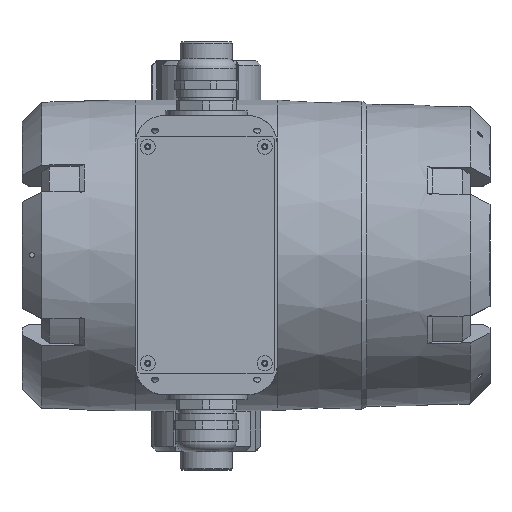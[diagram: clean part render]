
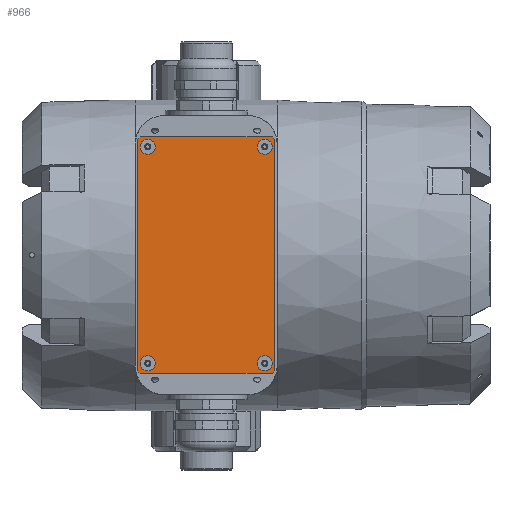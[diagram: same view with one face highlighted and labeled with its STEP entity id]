
A CAD part, top view. The second image highlights one B-rep face of the part: STEP entity #966.
In plain terms, the highlighted planar face has unit normal (0, 0, 1).
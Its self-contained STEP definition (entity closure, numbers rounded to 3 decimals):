
#966=ADVANCED_FACE('',(#9032,#9034,#9036,#9038,#9040),#9042,.T.);
#9032=FACE_BOUND('',#9033,.T.);
#9033=EDGE_LOOP('',(#32131,#32132,#32133,#32134,#32135,#32136,#32137,#32138));
#9034=FACE_BOUND('',#9035,.T.);
#9035=EDGE_LOOP('',(#32139));
#9036=FACE_BOUND('',#9037,.T.);
#9037=EDGE_LOOP('',(#32140));
#9038=FACE_BOUND('',#9039,.T.);
#9039=EDGE_LOOP('',(#32141));
#9040=FACE_BOUND('',#9041,.T.);
#9041=EDGE_LOOP('',(#32142));
#9042=PLANE('',#9043);
#9043=AXIS2_PLACEMENT_3D('',#9044,#9045,#9046);
#9044=CARTESIAN_POINT('',(0.,0.,214.868));
#9045=DIRECTION('',(0.,0.,1.));
#9046=DIRECTION('',(0.,1.,0.));
#32131=ORIENTED_EDGE('',*,*,#35903,.F.);
#32132=ORIENTED_EDGE('',*,*,#35889,.T.);
#32133=ORIENTED_EDGE('',*,*,#35892,.F.);
#32134=ORIENTED_EDGE('',*,*,#35894,.T.);
#32135=ORIENTED_EDGE('',*,*,#35896,.F.);
#32136=ORIENTED_EDGE('',*,*,#35898,.T.);
#32137=ORIENTED_EDGE('',*,*,#35900,.F.);
#32138=ORIENTED_EDGE('',*,*,#35902,.T.);
#32139=ORIENTED_EDGE('',*,*,#35964,.F.);
#32140=ORIENTED_EDGE('',*,*,#35965,.F.);
#32141=ORIENTED_EDGE('',*,*,#35966,.F.);
#32142=ORIENTED_EDGE('',*,*,#35967,.F.);
#35889=EDGE_CURVE('',#38038,#38036,#38039,.T.);
#35892=EDGE_CURVE('',#38041,#38036,#38043,.F.);
#35894=EDGE_CURVE('',#38041,#38044,#38046,.T.);
#35896=EDGE_CURVE('',#38047,#38044,#38049,.F.);
#35898=EDGE_CURVE('',#38047,#38050,#38052,.T.);
#35900=EDGE_CURVE('',#38053,#38050,#38055,.F.);
#35902=EDGE_CURVE('',#38053,#38056,#38058,.T.);
#35903=EDGE_CURVE('',#38038,#38056,#38059,.F.);
#35964=EDGE_CURVE('',#38160,#38160,#38161,.T.);
#35965=EDGE_CURVE('',#38162,#38162,#38163,.T.);
#35966=EDGE_CURVE('',#38164,#38164,#38165,.T.);
#35967=EDGE_CURVE('',#38166,#38166,#38167,.T.);
#38036=VERTEX_POINT('',#43128);
#38038=VERTEX_POINT('',#43132);
#38039=LINE('',#43133,#43134);
#38041=VERTEX_POINT('',#43139);
#38043=LINE('',#43143,#43144);
#38044=VERTEX_POINT('',#43146);
#38046=LINE('',#43150,#43151);
#38047=VERTEX_POINT('',#43153);
#38049=LINE('',#43157,#43158);
#38050=VERTEX_POINT('',#43160);
#38052=LINE('',#43164,#43165);
#38053=VERTEX_POINT('',#43167);
#38055=LINE('',#43171,#43172);
#38056=VERTEX_POINT('',#43174);
#38058=LINE('',#43178,#43179);
#38059=LINE('',#43181,#43182);
#38160=VERTEX_POINT('',#43994);
#38161=CIRCLE('',#43995,3.);
#38162=VERTEX_POINT('',#43999);
#38163=CIRCLE('',#44000,3.);
#38164=VERTEX_POINT('',#44004);
#38165=CIRCLE('',#44005,3.);
#38166=VERTEX_POINT('',#44009);
#38167=CIRCLE('',#44010,3.);
#43128=CARTESIAN_POINT('',(26.5,-47.5,214.868));
#43132=CARTESIAN_POINT('',(-26.5,-47.5,214.868));
#43133=CARTESIAN_POINT('',(-26.5,-47.5,214.868));
#43134=VECTOR('',#43135,1.);
#43135=DIRECTION('',(1.,0.,0.));
#43139=CARTESIAN_POINT('',(27.5,-46.5,214.868));
#43143=CARTESIAN_POINT('',(26.5,-47.5,214.868));
#43144=VECTOR('',#43145,1.);
#43145=DIRECTION('',(0.707,0.707,0.));
#43146=CARTESIAN_POINT('',(27.5,46.5,214.868));
#43150=CARTESIAN_POINT('',(27.5,-46.5,214.868));
#43151=VECTOR('',#43152,1.);
#43152=DIRECTION('',(0.,1.,0.));
#43153=CARTESIAN_POINT('',(26.5,47.5,214.868));
#43157=CARTESIAN_POINT('',(27.5,46.5,214.868));
#43158=VECTOR('',#43159,1.);
#43159=DIRECTION('',(-0.707,0.707,0.));
#43160=CARTESIAN_POINT('',(-26.5,47.5,214.868));
#43164=CARTESIAN_POINT('',(26.5,47.5,214.868));
#43165=VECTOR('',#43166,1.);
#43166=DIRECTION('',(-1.,0.,0.));
#43167=CARTESIAN_POINT('',(-27.5,46.5,214.868));
#43171=CARTESIAN_POINT('',(-26.5,47.5,214.868));
#43172=VECTOR('',#43173,1.);
#43173=DIRECTION('',(-0.707,-0.707,0.));
#43174=CARTESIAN_POINT('',(-27.5,-46.5,214.868));
#43178=CARTESIAN_POINT('',(-27.5,46.5,214.868));
#43179=VECTOR('',#43180,1.);
#43180=DIRECTION('',(0.,-1.,0.));
#43181=CARTESIAN_POINT('',(-27.5,-46.5,214.868));
#43182=VECTOR('',#43183,1.);
#43183=DIRECTION('',(0.707,-0.707,0.));
#43994=CARTESIAN_POINT('',(26.5,-43.5,214.868));
#43995=AXIS2_PLACEMENT_3D('',#43996,#43997,#43998);
#43996=CARTESIAN_POINT('',(23.5,-43.5,214.868));
#43997=DIRECTION('',(0.,0.,1.));
#43998=DIRECTION('',(1.,0.,0.));
#43999=CARTESIAN_POINT('',(-20.5,43.5,214.868));
#44000=AXIS2_PLACEMENT_3D('',#44001,#44002,#44003);
#44001=CARTESIAN_POINT('',(-23.5,43.5,214.868));
#44002=DIRECTION('',(0.,0.,1.));
#44003=DIRECTION('',(1.,0.,0.));
#44004=CARTESIAN_POINT('',(-20.5,-43.5,214.868));
#44005=AXIS2_PLACEMENT_3D('',#44006,#44007,#44008);
#44006=CARTESIAN_POINT('',(-23.5,-43.5,214.868));
#44007=DIRECTION('',(0.,0.,1.));
#44008=DIRECTION('',(1.,0.,0.));
#44009=CARTESIAN_POINT('',(26.5,43.5,214.868));
#44010=AXIS2_PLACEMENT_3D('',#44011,#44012,#44013);
#44011=CARTESIAN_POINT('',(23.5,43.5,214.868));
#44012=DIRECTION('',(0.,0.,1.));
#44013=DIRECTION('',(1.,0.,0.));
